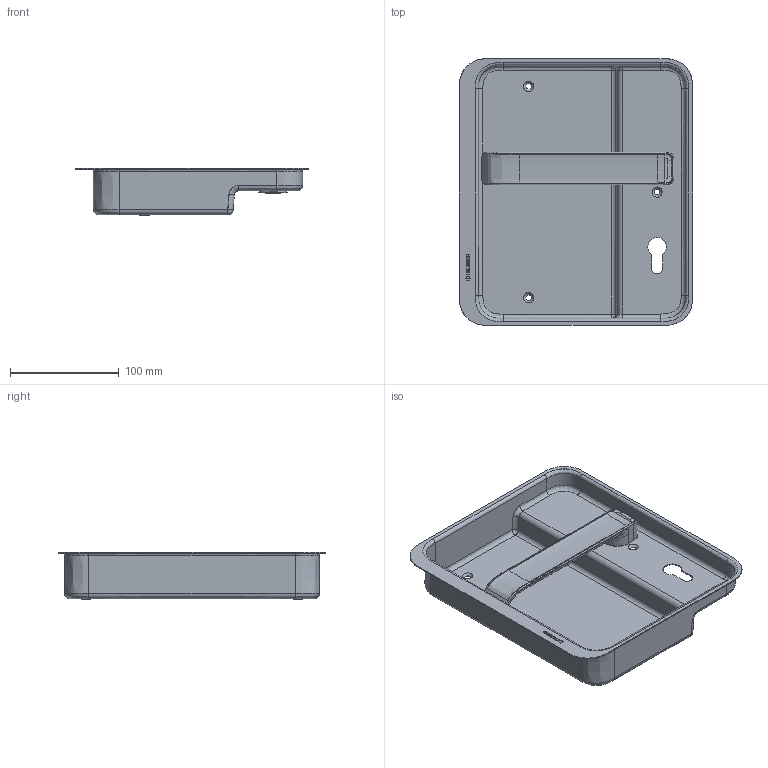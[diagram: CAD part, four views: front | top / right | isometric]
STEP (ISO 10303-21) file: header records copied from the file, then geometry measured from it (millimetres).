
FILE_DESCRIPTION(/* description */ (''),/* implementation_level */ '2;1');
FILE_NAME(/* name */ 'C:\ADSK_DMS_WS\Designs\Vorschläge\Loc Schalen\Muschel Serie 9\S9.42.D3Links\Heusser-Muschel S9.42.D3.372L.stp',/* time_stamp */ '2020-10-13T10:32:17+02:00',/* author */ ('gm'),/* organization */ (''),/* preprocessor_version */ 'ST-DEVELOPER v16.5',/* originating_system */ 'Autodesk Inventor 2017',/* authorisation */ '');
FILE_SCHEMA (('AUTOMOTIVE_DESIGN { 1 0 10303 214 3 1 1 }'));
Length unit declared in the file: millimetre
Products named in the file (1): S9.42.D3.0L
Bounding box: 214 x 245 x 44 mm (x, y, z)
Volume: 114529.9 mm3; surface area: 177097.5 mm2
Topology: 1 solids, 2 shells, 354 faces, 903 edges, 578 vertices
Faces by surface type: bspline 180, plane 137, cylinder 21, cone 16
Full cylindrical faces by diameter (mm): 1.7 x2, 14.2 x1, 16 x3, 18 x1, 19 x1, 19.1 x1, 23 x1, 23.2 x1, 24 x1, 25 x1, 26 x1, 28 x1
Entity records: 21546 total; most frequent: CARTESIAN_POINT 13852, ORIENTED_EDGE 1726, DIRECTION 985, EDGE_CURVE 863, VERTEX_POINT 573, LINE 439, VECTOR 439, EDGE_LOOP 430
